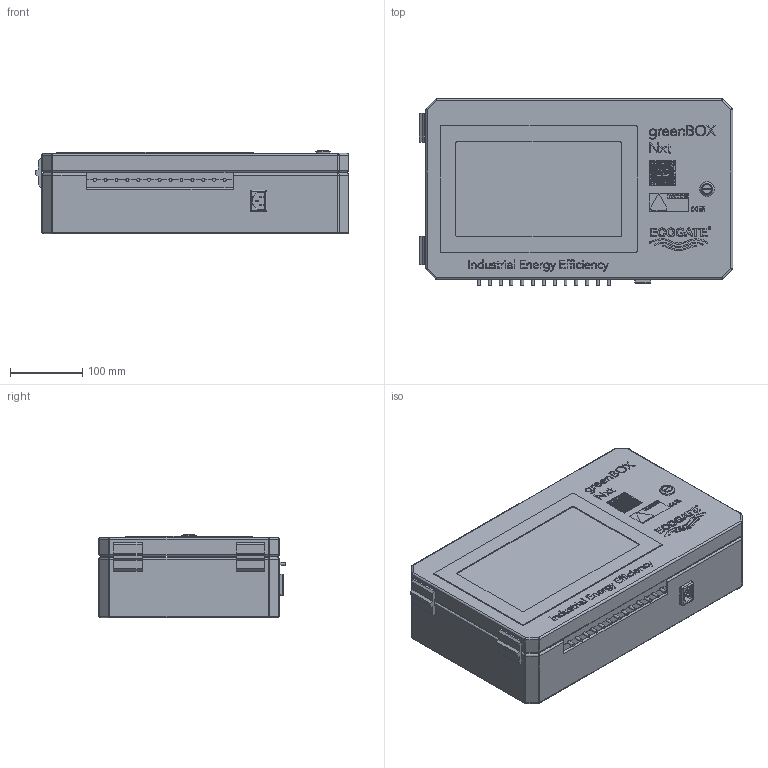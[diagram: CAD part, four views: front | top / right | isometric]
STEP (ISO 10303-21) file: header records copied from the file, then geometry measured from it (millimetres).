
FILE_DESCRIPTION( ('This file contains a STEP AP42 implementation' ,'as created by ZW3D STEP Interface translator.') ,'2;1' );
FILE_NAME( 'GB NEXT II rev.A maketa with LCD.stp' ,'23 4 3.13 8 9', (''), ('ZWCAD Software Co.'), 'Version 1.0', 'ZW3D to STEP translator', '' );
FILE_SCHEMA(('AUTOMOTIVE_DESIGN { 1 0 10303 214 1 1 1 1 }'));
Length unit declared in the file: millimetre
Products named in the file (1): 0
Bounding box: 434.3 x 258 x 116 mm (x, y, z)
Volume: 11679441.5 mm3; surface area: 576866.9 mm2
Topology: 1 solids, 1 shells, 2329 faces, 9668 edges, 12584 vertices
Faces by surface type: plane 1279, bspline 852, cylinder 156, sphere 32, cone 10
Full cylindrical faces by diameter (mm): 4 x13, 14.14 x1, 20.14 x1
Entity records: 129302 total; most frequent: CARTESIAN_POINT 63325, ORIENTED_EDGE 10034, DIRECTION 9605, VECTOR 5925, LINE 5925, EDGE_CURVE 5017, STYLED_ITEM 4647, B_SPLINE_CURVE_WITH_KNOTS 3373
